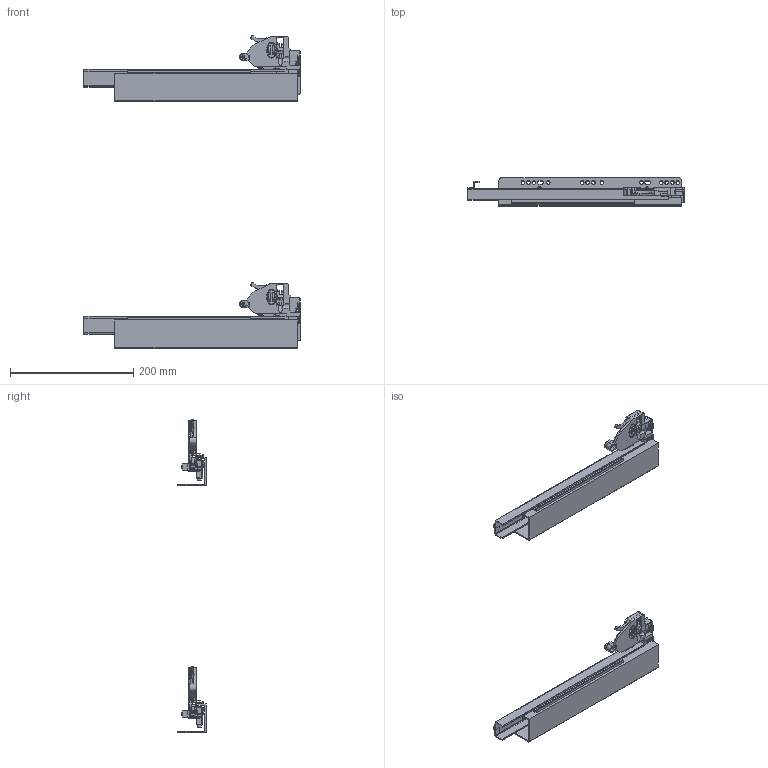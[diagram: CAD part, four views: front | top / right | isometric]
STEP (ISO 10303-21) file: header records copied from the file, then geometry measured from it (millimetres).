
FILE_DESCRIPTION(/* description */ (''),/* implementation_level */ '2;1');
FILE_NAME(/* name */ 'C:\Users\dmitruk\Documents\WORK\НАПРАВЛЯЮЩИЕ\Скрытого монтажаНаправляющие скрытого монтажа 3D-350.stp',/* time_stamp */ '2022-07-29T12:21:01+03:00',/* author */ ('dmitruk'),/* organization */ (''),/* preprocessor_version */ 'ST-DEVELOPER v16.5',/* originating_system */ 'Autodesk Inventor 2017',/* authorisation */ '');
FILE_SCHEMA (('AUTOMOTIVE_DESIGN { 1 0 10303 214 3 1 1 }'));
Length unit declared in the file: millimetre
Products named in the file (6): Направляющие \X2\0441043A
0440044B0442043E0433043E\X0\ монтажа 3D; Направляющие \X2\0441043A
0440044B0442043E0433043E\X0\ монтажа 3D \X2\043F
044004300432\X0\; 3D CP; 3D DP; Крепление 3D \X2\043B
04350432\X0\; 3D Направляющие \X2\0441043A
0440044B0442043E0433043E\X0\ монтажа \X2\043F
043E043B043D043E0433043E\X0\ \X2\0432044B04340432043804360435043D0438044F
\X0\ slim DW slim slide
Assembly tree (6 placements, depth 3):
  Направляющие \X2\0441043A
0440044B0442043E0433043E\X0\ монтажа 3D
    Направляющие \X2\0441043A
0440044B0442043E0433043E\X0\ монтажа 3D \X2\043F
044004300432\X0\  x2
      3D CP
      3D DP
      Крепление 3D \X2\043B
04350432\X0\
      3D Направляющие \X2\0441043A
0440044B0442043E0433043E\X0\ монтажа \X2\043F
043E043B043D043E0433043E\X0\ \X2\0432044B04340432043804360435043D0438044F
\X0\ slim DW slim slide
Bounding box: 350 x 46 x 506.67 mm (x, y, z)
Volume: 255021.9 mm3; surface area: 319033.3 mm2
Topology: 24 solids, 24 shells, 994 faces, 2810 edges, 1850 vertices
Faces by surface type: plane 772, cylinder 208, cone 6, sphere 4, bspline 2, torus 2
Full cylindrical faces by diameter (mm): 3.8 x10, 6 x52, 7 x2, 12 x4
Entity records: 16307 total; most frequent: CARTESIAN_POINT 2955, ORIENTED_EDGE 2734, DIRECTION 2605, EDGE_CURVE 1364, LINE 1127, VECTOR 1127, VERTEX_POINT 921, AXIS2_PLACEMENT_3D 739
